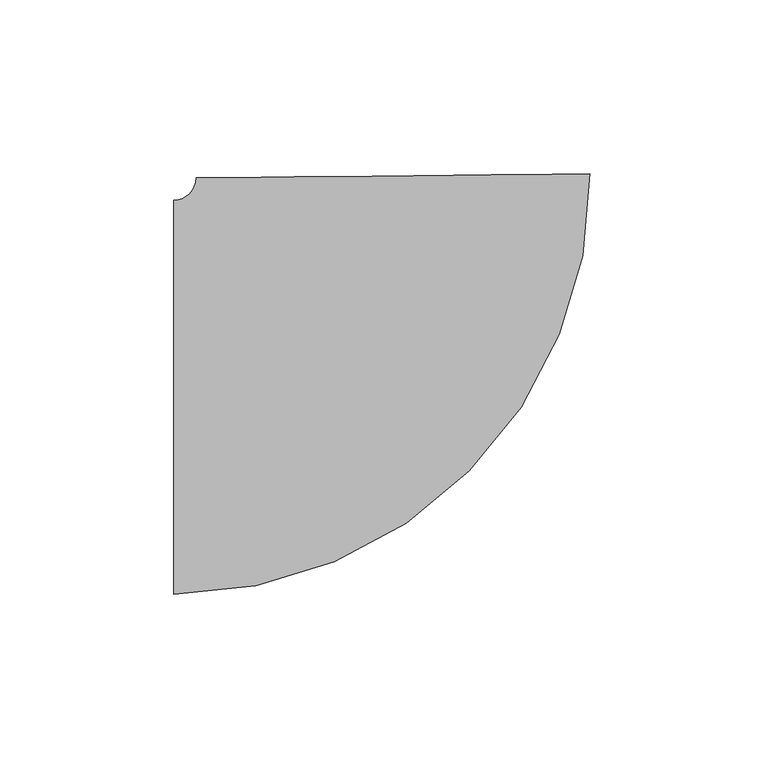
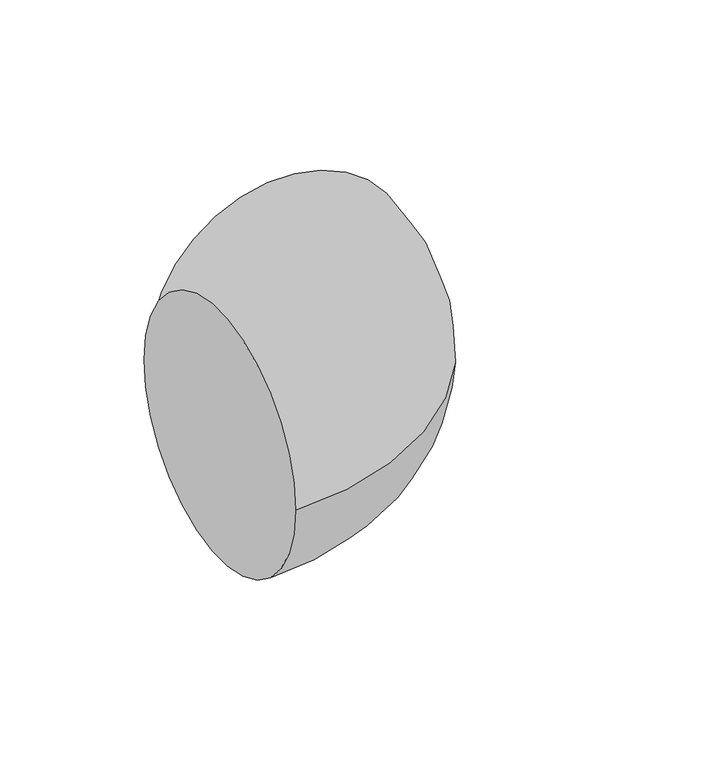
"""IFC4 building model written with IfcOpenShell, lengths in millimetres: pipe fitting geometry, M_Codo - Genérico : Estándar."""

from ifc_helpers import new_model, si_unit, point, frame, origin, place, context, project, spatial, circle_curve, ellipse_curve, trimmed, source, transform, mapped, element, save
from ifc_brep_helpers import plane_surface, revolved_surface, advanced_brep


def pipe_fitting_4b8aae89(model_context):
    return source(origin(), model_context, "Body", "AdvancedBrep", [
        advanced_brep(
        [(-63.5700218, -56.5875, 0.0), (-63.5700218, 56.5875, 0.0), (55.9490024, 64.1326902, 0.0), (-57.2203393, 63.0009968, 0.0)],
        [
            (0, 1, circle_curve(frame((-63.5700218, 0.0, 0.0), z_axis=(-1.0, 0.0, 0.0), x_axis=(0.0, 1.0, 0.0)), 56.5875)),
            (1, 0, circle_curve(frame((-63.5700218, 0.0, 0.0), z_axis=(-1.0, 0.0, 0.0), x_axis=(0.0, 1.0, 0.0)), 56.5875)),
            (2, 3, circle_curve(frame((-0.6356684, 63.5668435, 0.0), z_axis=(-0.009999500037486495, 0.9999500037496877, 0.0), x_axis=(-0.9999500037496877, -0.009999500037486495, 0.0)), 56.5875)),
            (3, 2, circle_curve(frame((-0.6356684, 63.5668435, 0.0), z_axis=(-0.009999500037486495, 0.9999500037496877, 0.0), x_axis=(-0.9999500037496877, -0.009999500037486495, 0.0)), 56.5875)),
            (3, 1, circle_curve(frame((-63.5700218, 62.9375, 0.0), z_axis=(0.0, 0.0, -1.0), x_axis=(0.0, -1.0, 0.0)), 6.35)),
            (0, 2, circle_curve(frame((-63.5700218, 62.9375, 0.0), z_axis=(0.0, 0.0, 1.0), x_axis=(0.0, -1.0, 0.0)), 119.525)),
        ],
        [
            plane_surface(frame((-63.5700218, 0.0, 0.0), z_axis=(-1.0, 0.0, 0.0), x_axis=(0.0, 0.0, 1.0))),
            plane_surface(frame((-0.6356684, 63.5668435, 0.0), z_axis=(-0.009999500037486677, 0.9999500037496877, 0.0), x_axis=(0.0, 0.0, 1.0))),
            revolved_surface(trimmed(ellipse_curve(frame((-63.5700218, 0.0, 0.0), z_axis=(-1.0, 0.0, 0.0), x_axis=(0.0, 1.0, 0.0)), 56.5875, 56.5875), [point((-63.5700218, -56.5875, 0.0))], [point((-63.5700218, 56.5875, 0.0))], True, "CARTESIAN"), (-63.5700218, 62.9375, 0.0), (0.0, 0.0, 1.0)),
            revolved_surface(trimmed(ellipse_curve(frame((-63.5700218, 0.0, 0.0), z_axis=(-1.0, 0.0, 0.0), x_axis=(0.0, 1.0, 0.0)), 56.5875, 56.5875), [point((-63.5700218, 56.5875, 0.0))], [point((-63.5700218, -56.5875, 0.0))], True, "CARTESIAN"), (-63.5700218, 62.9375, 0.0), (0.0, 0.0, 1.0)),
        ],
        [
            (0, [[1, 2]]),
            (1, [[3, 4]]),
            (2, [[5, -1, 6, -4]]),
            (3, [[-6, -2, -5, -3]]),
        ],
    ),
    ])


if __name__ == "__main__":
    model = new_model("IFC4")
    model_context = context("Model", 3, world=origin())
    ifc_project = project(units=[si_unit("LENGTHUNIT", "METRE", prefix="MILLI")], contexts=[model_context])
    site = spatial("IfcSite", under=ifc_project)
    building = spatial("IfcBuilding", under=site)
    placement = place(None, origin())
    pipe_fitting_shape = pipe_fitting_4b8aae89(model_context)
    element("IfcPipeFitting", 1, ObjectType="M_Codo - Genérico : Estándar", at=placement, inside=building, context=model_context, shape_type="MappedRepresentation", body=[
        mapped(pipe_fitting_shape, transform((0.0, 0.0, 0.0), x_axis=(1.0, 0.0, 0.0), y_axis=(0.0, 1.0, 0.0), z_axis=(0.0, 0.0, 1.0))),
    ])
    save(model, "model.ifc")
